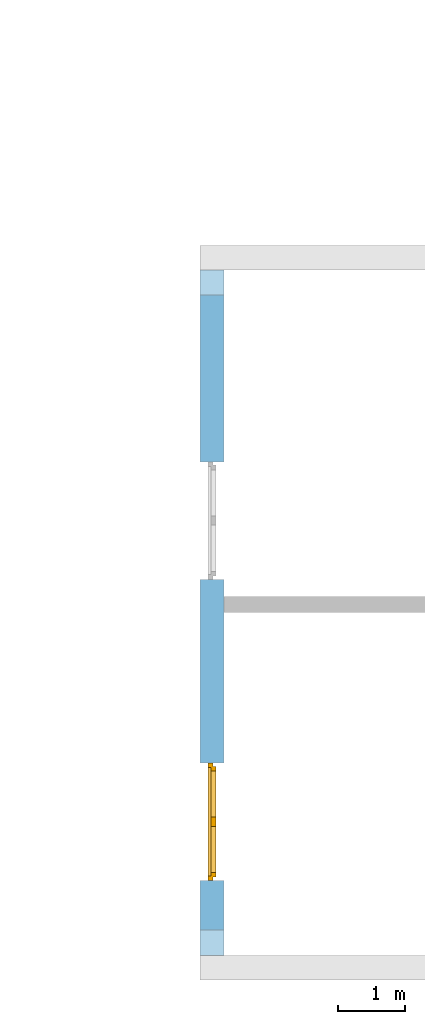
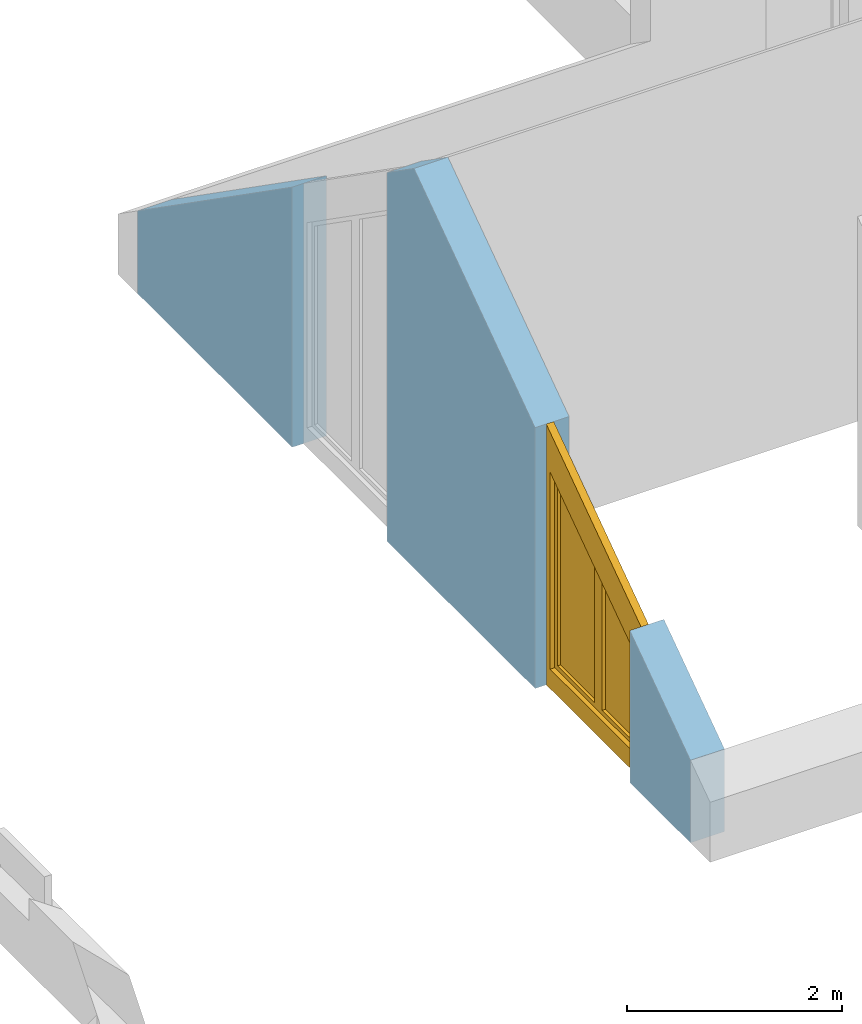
# One storey, part 13 of 23: 1 window, 2 openings, plus 1 element that does not belong to this part.
"""IFC2X3 building model written with IfcOpenShell, lengths in millimetres."""

from ifc_helpers import new_model, entity, si_unit, converted_unit, frame, frame_2d, origin, origin_with_axes, place, context, subcontext, project, spatial, polyline, rectangle, outline, extrude, clip, bounded_halfspace, faceted_brep, material, layer, layer_set, layer_usage, type_object, element, fill, save


model = new_model("IFC2X3")

# Units and contexts
model_context = context("Model", 3, precision=1e-05, world=origin())
body_context = subcontext(model_context, "Body", "Model", "MODEL_VIEW")
ifc_project = project(units=[si_unit("LENGTHUNIT", "METRE", prefix="MILLI"), converted_unit("PLANEANGLEUNIT", "DEGREE", entity("IfcPlaneAngleMeasure", 0.0174532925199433), si_unit("PLANEANGLEUNIT", "RADIAN"), dimensions=[0, 0, 0, 0, 0, 0, 0]), si_unit("AREAUNIT", "SQUARE_METRE"), si_unit("VOLUMEUNIT", "CUBIC_METRE")], contexts=[model_context])

# Building, storey
building_placement = place(None, origin())
building = spatial("IfcBuilding", under=ifc_project, at=building_placement, Name="Gebäude", CompositionType="ELEMENT")
storey_placement = place(building_placement, frame((0.0, 0.0, 5580.0), z_axis=(0.0, 0.0, 1.0), x_axis=(1.0, 0.0, 0.0)))
storey = spatial("IfcBuildingStorey", under=building, at=storey_placement, Name="DG.- Grundriss", CompositionType="ELEMENT", Elevation=5580.0)

# Wall, openings, window
ifc_material_1 = material(Name="Poroton")
ifc_layer = layer(ifc_material_1, 365.0)
ifc_layer_set = layer_set([ifc_layer])
ifc_layer_usage = layer_usage(ifc_layer_set, "AXIS2", "POSITIVE", 0.0)
wall_placement = place(storey_placement, frame((148357.7928067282, 135909.8877324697, 0.0), z_axis=(0.0, 0.0, 1.0), x_axis=(1.70032115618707e-14, -1.0, 0.0)))
wall = element("IfcWallStandardCase", 1, at=wall_placement, inside=storey, material=ifc_layer_usage, Name="<Unnamed Element>", context=body_context, shape_type="Clipping", body=[
    clip(clip(extrude(rectangle(XDim=10269.99999999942, YDim=365.0, at=frame_2d((5134.999999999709, 182.5), x_axis=(1.0, 0.0))), origin_with_axes(), (0.0, 0.0, 1.0), 4531.141460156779), bounded_halfspace(frame((6.206172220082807e-12, 365.0, 935.5757514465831), z_axis=(0.5735764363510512, -1.115129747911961e-14, -0.8191520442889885), x_axis=(-1.70032115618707e-14, -1.0, 0.0)), True, origin(), polyline([(6.206172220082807e-12, 365.0), (0.0, 0.0), (5134.99999999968, 4.911384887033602e-25), (5135.000000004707, 365.0), (6.206172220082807e-12, 365.0)]))), bounded_halfspace(frame((10270.00000000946, 365.0, 935.5757514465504), z_axis=(-0.5735764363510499, 1.578219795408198e-11, -0.8191520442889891), x_axis=(-0.819152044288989, 1.369778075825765e-26, 0.5735764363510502)), True, origin(), polyline([(10270.00000000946, 365.0), (5135.000000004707, 365.0), (5134.99999999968, 4.911384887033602e-25), (10269.99999999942, 0.0), (10270.00000000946, 365.0)]))),
])
opening_1_placement = place(wall_placement, frame((2874.999999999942, -2.54658516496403e-11, 0.0), z_axis=(0.0, 1.0, 0.0), x_axis=(0.0, 0.0, 1.0)))
element("IfcOpeningElement", 2, at=opening_1_placement, cuts=wall, Name="Fensteröffnung", ObjectType="Opening", context=body_context, shape_type="SweptSolid", body=[
    extrude(outline(polyline([(2948.672423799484, 0.0), (0.0, 0.0), (0.0, 1760.0), (4181.037691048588, 1760.0), (2948.672423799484, 0.0)])), origin_with_axes(), (0.0, 0.0, 1.0), 365.0),
])
opening_2_placement = place(wall_placement, frame((7384.999999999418, -9.851646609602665e-11, 0.0), z_axis=(0.0, 1.0, 0.0), x_axis=(0.0, 0.0, 1.0)))
opening_2 = element("IfcOpeningElement", 3, at=opening_2_placement, cuts=wall, Name="Fensteröffnung", ObjectType="Opening", context=body_context, shape_type="SweptSolid", body=[
    extrude(outline(polyline([(2955.674499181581, 0.0), (0.0, 0.0), (0.0, 1760.0), (1723.309231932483, 1760.0), (2955.674499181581, 0.0)])), origin_with_axes(), (0.0, 0.0, 1.0), 365.0),
])
ifc_material_2 = material()
window_style = type_object("IfcWindowStyle", Name="Fenster", ConstructionType="NOTDEFINED", OperationType="USERDEFINED", ParameterTakesPrecedence=False, Sizeable=False)
window_placement = place(opening_2_placement, frame((0.0, 0.0, 0.0), z_axis=(1.0, 0.0, 0.0), x_axis=(0.0, 1.0, 0.0)))
window = element("IfcWindow", 4, at=window_placement, inside=storey, type_object=window_style, material=ifc_material_2, Name="Fenster", OverallHeight=2955.674499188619, OverallWidth=1760.0, context=body_context, shape_type="Brep", body=[
    faceted_brep([(1760.000000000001, 200.0000000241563, 1723.309231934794), (1.364242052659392e-12, 200.0000000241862, 2955.674499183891), (1.364242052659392e-12, 200.000000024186, -2.449293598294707e-15), (1760.000000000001, 200.0000000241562, -2.449293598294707e-15), (1690.000000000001, 200.0000000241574, 220.0), (70.00000000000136, 200.0000000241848, 220.0), (70.00000000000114, 200.000000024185, 2454.973373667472), (1690.000000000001, 200.0000000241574, 1320.637161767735), (1760.0, 120.0000000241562, 2.449293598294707e-15), (0.0, 120.000000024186, 2.449293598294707e-15), (0.0, 120.0000000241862, 2955.674499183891), (1760.0, 120.0000000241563, 1723.309231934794), (1690.0, 120.0000000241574, 1320.637161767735), (69.99999999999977, 120.000000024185, 2454.973373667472), (70.0, 120.0000000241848, 220.0), (1690.0, 120.0000000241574, 220.0), (1760.000000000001, 200.0000000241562, -2.449293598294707e-15), (1760.0, 120.0000000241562, 2.449293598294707e-15), (1760.0, 120.0000000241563, 1723.309231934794), (1760.000000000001, 200.0000000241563, 1723.309231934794), (1.364242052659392e-12, 200.000000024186, -2.449293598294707e-15), (0.0, 120.000000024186, 2.449293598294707e-15), (1760.0, 120.0000000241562, 2.449293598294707e-15), (1760.000000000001, 200.0000000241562, -2.449293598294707e-15), (1.364242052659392e-12, 200.0000000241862, 2955.674499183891), (0.0, 120.0000000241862, 2955.674499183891), (0.0, 120.000000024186, 2.449293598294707e-15), (1.364242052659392e-12, 200.000000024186, -2.449293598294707e-15), (1760.000000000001, 200.0000000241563, 1723.309231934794), (1760.0, 120.0000000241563, 1723.309231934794), (0.0, 120.0000000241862, 2955.674499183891), (1.364242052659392e-12, 200.0000000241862, 2955.674499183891), (1690.000000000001, 200.0000000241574, 220.0), (1690.000000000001, 200.0000000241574, 1320.637161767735), (1690.0, 120.0000000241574, 1320.637161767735), (1690.0, 120.0000000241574, 220.0), (70.00000000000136, 200.0000000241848, 220.0), (1690.000000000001, 200.0000000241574, 220.0), (1690.0, 120.0000000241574, 220.0), (70.0, 120.0000000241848, 220.0), (70.00000000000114, 200.000000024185, 2454.973373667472), (70.00000000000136, 200.0000000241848, 220.0), (70.0, 120.0000000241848, 220.0), (69.99999999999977, 120.000000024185, 2454.973373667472), (1690.000000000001, 200.0000000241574, 1320.637161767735), (70.00000000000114, 200.000000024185, 2454.973373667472), (69.99999999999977, 120.000000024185, 2454.973373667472), (1690.0, 120.0000000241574, 1320.637161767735)], [[[0, 1, 2, 3], [4, 5, 6, 7]], [[8, 9, 10, 11], [12, 13, 14, 15]], [[16, 17, 18, 19]], [[20, 21, 22, 23]], [[24, 25, 26, 27]], [[28, 29, 30, 31]], [[32, 33, 34, 35]], [[36, 37, 38, 39]], [[40, 41, 42, 43]], [[44, 45, 46, 47]]], orient=[[False, False], [False, False], [False], [False], [False], [False], [False], [False], [False], [False]]),
    faceted_brep([(900.499999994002, 240.0000000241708, 220.0), (1690.000000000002, 240.0000000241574, 220.0), (1690.000000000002, 240.0000000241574, 1320.637161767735), (900.499999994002, 240.0000000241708, 1873.451013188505), (950.499999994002, 240.00000002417, 1777.401906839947), (1640.000000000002, 240.0000000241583, 1294.608809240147), (1640.000000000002, 240.0000000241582, 270.0), (950.499999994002, 240.0000000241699, 270.0), (900.4999999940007, 170.0000000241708, 1873.451013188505), (1690.000000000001, 170.0000000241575, 1320.637161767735), (1690.000000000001, 170.0000000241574, 220.0), (900.4999999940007, 170.0000000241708, 220.0), (950.4999999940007, 170.0000000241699, 270.0), (1640.000000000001, 170.0000000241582, 270.0), (1640.000000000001, 170.0000000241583, 1294.608809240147), (950.4999999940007, 170.00000002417, 1777.401906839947), (900.499999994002, 240.0000000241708, 1873.451013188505), (900.4999999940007, 170.0000000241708, 1873.451013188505), (900.4999999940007, 170.0000000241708, 220.0), (900.499999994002, 240.0000000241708, 220.0), (1690.000000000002, 240.0000000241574, 1320.637161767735), (1690.000000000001, 170.0000000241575, 1320.637161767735), (900.4999999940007, 170.0000000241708, 1873.451013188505), (900.499999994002, 240.0000000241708, 1873.451013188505), (1690.000000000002, 240.0000000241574, 220.0), (1690.000000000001, 170.0000000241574, 220.0), (1690.000000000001, 170.0000000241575, 1320.637161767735), (1690.000000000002, 240.0000000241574, 1320.637161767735), (900.499999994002, 240.0000000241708, 220.0), (900.4999999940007, 170.0000000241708, 220.0), (1690.000000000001, 170.0000000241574, 220.0), (1690.000000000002, 240.0000000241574, 220.0), (950.499999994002, 240.00000002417, 1777.401906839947), (950.499999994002, 240.0000000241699, 270.0), (950.4999999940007, 170.0000000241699, 270.0), (950.4999999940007, 170.00000002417, 1777.401906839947), (1640.000000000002, 240.0000000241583, 1294.608809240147), (950.499999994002, 240.00000002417, 1777.401906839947), (950.4999999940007, 170.00000002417, 1777.401906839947), (1640.000000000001, 170.0000000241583, 1294.608809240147), (1640.000000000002, 240.0000000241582, 270.0), (1640.000000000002, 240.0000000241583, 1294.608809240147), (1640.000000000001, 170.0000000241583, 1294.608809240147), (1640.000000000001, 170.0000000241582, 270.0), (950.499999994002, 240.0000000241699, 270.0), (1640.000000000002, 240.0000000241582, 270.0), (1640.000000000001, 170.0000000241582, 270.0), (950.4999999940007, 170.0000000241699, 270.0)], [[[0, 1, 2, 3], [4, 5, 6, 7]], [[8, 9, 10, 11], [12, 13, 14, 15]], [[16, 17, 18, 19]], [[20, 21, 22, 23]], [[24, 25, 26, 27]], [[28, 29, 30, 31]], [[32, 33, 34, 35]], [[36, 37, 38, 39]], [[40, 41, 42, 43]], [[44, 45, 46, 47]]], orient=[[False, False], [False, False], [False], [False], [False], [False], [False], [False], [False], [False]]),
    faceted_brep([(880.499999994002, 240.0000000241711, 200.0), (1710.000000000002, 240.000000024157, 200.0), (1710.000000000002, 240.0000000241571, 1331.04850277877), (880.499999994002, 240.0000000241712, 1911.870655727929), (900.499999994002, 240.0000000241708, 1873.451013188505), (1690.000000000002, 240.0000000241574, 1320.637161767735), (1690.000000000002, 240.0000000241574, 220.0), (900.499999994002, 240.0000000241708, 220.0), (880.4999999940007, 170.0000000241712, 1911.870655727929), (1710.000000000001, 170.0000000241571, 1331.04850277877), (1710.000000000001, 170.000000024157, 200.0), (880.4999999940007, 170.0000000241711, 200.0), (900.4999999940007, 170.0000000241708, 220.0), (1690.000000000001, 170.0000000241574, 220.0), (1690.000000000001, 170.0000000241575, 1320.637161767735), (900.4999999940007, 170.0000000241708, 1873.451013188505), (880.499999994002, 240.0000000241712, 1911.870655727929), (880.4999999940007, 170.0000000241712, 1911.870655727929), (880.4999999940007, 170.0000000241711, 200.0), (880.499999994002, 240.0000000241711, 200.0), (1710.000000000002, 240.0000000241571, 1331.04850277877), (1710.000000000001, 170.0000000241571, 1331.04850277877), (880.4999999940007, 170.0000000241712, 1911.870655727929), (880.499999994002, 240.0000000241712, 1911.870655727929), (1710.000000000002, 240.000000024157, 200.0), (1710.000000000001, 170.000000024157, 200.0), (1710.000000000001, 170.0000000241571, 1331.04850277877), (1710.000000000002, 240.0000000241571, 1331.04850277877), (880.499999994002, 240.0000000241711, 200.0), (880.4999999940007, 170.0000000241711, 200.0), (1710.000000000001, 170.000000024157, 200.0), (1710.000000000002, 240.000000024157, 200.0), (900.499999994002, 240.0000000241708, 1873.451013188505), (900.499999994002, 240.0000000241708, 220.0), (900.4999999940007, 170.0000000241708, 220.0), (900.4999999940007, 170.0000000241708, 1873.451013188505), (1690.000000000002, 240.0000000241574, 1320.637161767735), (900.499999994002, 240.0000000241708, 1873.451013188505), (900.4999999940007, 170.0000000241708, 1873.451013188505), (1690.000000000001, 170.0000000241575, 1320.637161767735), (1690.000000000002, 240.0000000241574, 220.0), (1690.000000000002, 240.0000000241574, 1320.637161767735), (1690.000000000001, 170.0000000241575, 1320.637161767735), (1690.000000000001, 170.0000000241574, 220.0), (900.499999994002, 240.0000000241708, 220.0), (1690.000000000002, 240.0000000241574, 220.0), (1690.000000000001, 170.0000000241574, 220.0), (900.4999999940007, 170.0000000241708, 220.0)], [[[0, 1, 2, 3], [4, 5, 6, 7]], [[8, 9, 10, 11], [12, 13, 14, 15]], [[16, 17, 18, 19]], [[20, 21, 22, 23]], [[24, 25, 26, 27]], [[28, 29, 30, 31]], [[32, 33, 34, 35]], [[36, 37, 38, 39]], [[40, 41, 42, 43]], [[44, 45, 46, 47]]], orient=[[False, False], [False, False], [False], [False], [False], [False], [False], [False], [False], [False]]),
    faceted_brep([(70.00000000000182, 240.000000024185, 2454.973373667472), (70.00000000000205, 240.0000000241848, 220.0), (899.4999999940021, 240.0000000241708, 220.0), (899.4999999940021, 240.0000000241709, 1874.151220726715), (809.4999999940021, 240.0000000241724, 1876.131169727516), (809.4999999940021, 240.0000000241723, 270.0), (120.0000000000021, 240.000000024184, 270.0), (120.0000000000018, 240.0000000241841, 2358.924267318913), (899.4999999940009, 170.0000000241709, 1874.151220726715), (899.4999999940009, 170.0000000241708, 220.0), (70.00000000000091, 170.0000000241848, 220.0), (70.00000000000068, 170.000000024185, 2454.973373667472), (120.0000000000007, 170.0000000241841, 2358.924267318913), (120.0000000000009, 170.000000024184, 270.0), (809.4999999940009, 170.0000000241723, 270.0), (809.4999999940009, 170.0000000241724, 1876.131169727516), (899.4999999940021, 240.0000000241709, 1874.151220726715), (899.4999999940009, 170.0000000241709, 1874.151220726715), (70.00000000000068, 170.000000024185, 2454.973373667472), (70.00000000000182, 240.000000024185, 2454.973373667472), (899.4999999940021, 240.0000000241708, 220.0), (899.4999999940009, 170.0000000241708, 220.0), (899.4999999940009, 170.0000000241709, 1874.151220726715), (899.4999999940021, 240.0000000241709, 1874.151220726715), (70.00000000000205, 240.0000000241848, 220.0), (70.00000000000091, 170.0000000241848, 220.0), (899.4999999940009, 170.0000000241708, 220.0), (899.4999999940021, 240.0000000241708, 220.0), (70.00000000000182, 240.000000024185, 2454.973373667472), (70.00000000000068, 170.000000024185, 2454.973373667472), (70.00000000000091, 170.0000000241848, 220.0), (70.00000000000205, 240.0000000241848, 220.0), (809.4999999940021, 240.0000000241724, 1876.131169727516), (120.0000000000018, 240.0000000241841, 2358.924267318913), (120.0000000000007, 170.0000000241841, 2358.924267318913), (809.4999999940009, 170.0000000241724, 1876.131169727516), (809.4999999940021, 240.0000000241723, 270.0), (809.4999999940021, 240.0000000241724, 1876.131169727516), (809.4999999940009, 170.0000000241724, 1876.131169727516), (809.4999999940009, 170.0000000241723, 270.0), (120.0000000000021, 240.000000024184, 270.0), (809.4999999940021, 240.0000000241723, 270.0), (809.4999999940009, 170.0000000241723, 270.0), (120.0000000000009, 170.000000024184, 270.0), (120.0000000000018, 240.0000000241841, 2358.924267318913), (120.0000000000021, 240.000000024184, 270.0), (120.0000000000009, 170.000000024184, 270.0), (120.0000000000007, 170.0000000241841, 2358.924267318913)], [[[0, 1, 2, 3], [4, 5, 6, 7]], [[8, 9, 10, 11], [12, 13, 14, 15]], [[16, 17, 18, 19]], [[20, 21, 22, 23]], [[24, 25, 26, 27]], [[28, 29, 30, 31]], [[32, 33, 34, 35]], [[36, 37, 38, 39]], [[40, 41, 42, 43]], [[44, 45, 46, 47]]], orient=[[False, False], [False, False], [False], [False], [False], [False], [False], [False], [False], [False]]),
    faceted_brep([(50.00000000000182, 240.0000000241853, 2493.393016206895), (50.00000000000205, 240.0000000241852, 200.0), (879.4999999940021, 240.0000000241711, 200.0), (879.4999999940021, 240.0000000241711, 219.9999999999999), (70.00000000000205, 240.0000000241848, 220.0), (70.00000000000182, 240.000000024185, 2454.973373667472), (879.4999999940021, 240.0000000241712, 1888.155371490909), (879.4999999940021, 240.0000000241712, 1912.570863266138), (879.4999999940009, 170.0000000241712, 1912.570863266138), (879.4999999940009, 170.0000000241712, 1888.155371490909), (70.00000000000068, 170.000000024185, 2454.973373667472), (70.00000000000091, 170.0000000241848, 220.0), (879.4999999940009, 170.0000000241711, 219.9999999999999), (879.4999999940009, 170.0000000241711, 200.0), (50.00000000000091, 170.0000000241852, 200.0), (50.00000000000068, 170.0000000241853, 2493.393016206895), (879.4999999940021, 240.0000000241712, 1912.570863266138), (879.4999999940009, 170.0000000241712, 1912.570863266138), (50.00000000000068, 170.0000000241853, 2493.393016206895), (50.00000000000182, 240.0000000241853, 2493.393016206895), (879.4999999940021, 240.0000000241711, 200.0), (879.4999999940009, 170.0000000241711, 200.0), (879.4999999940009, 170.0000000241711, 219.9999999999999), (879.4999999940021, 240.0000000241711, 219.9999999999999), (879.4999999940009, 170.0000000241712, 1888.155371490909), (879.4999999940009, 170.0000000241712, 1912.570863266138), (879.4999999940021, 240.0000000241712, 1912.570863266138), (879.4999999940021, 240.0000000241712, 1888.155371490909), (50.00000000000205, 240.0000000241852, 200.0), (50.00000000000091, 170.0000000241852, 200.0), (879.4999999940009, 170.0000000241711, 200.0), (879.4999999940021, 240.0000000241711, 200.0), (50.00000000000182, 240.0000000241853, 2493.393016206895), (50.00000000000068, 170.0000000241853, 2493.393016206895), (50.00000000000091, 170.0000000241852, 200.0), (50.00000000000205, 240.0000000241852, 200.0), (879.4999999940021, 240.0000000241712, 1888.155371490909), (70.00000000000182, 240.000000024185, 2454.973373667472), (70.00000000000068, 170.000000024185, 2454.973373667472), (879.4999999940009, 170.0000000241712, 1888.155371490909), (70.00000000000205, 240.0000000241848, 220.0), (879.4999999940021, 240.0000000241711, 219.9999999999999), (879.4999999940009, 170.0000000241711, 219.9999999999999), (70.00000000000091, 170.0000000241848, 220.0), (70.00000000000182, 240.000000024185, 2454.973373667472), (70.00000000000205, 240.0000000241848, 220.0), (70.00000000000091, 170.0000000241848, 220.0), (70.00000000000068, 170.000000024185, 2454.973373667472)], [[[0, 1, 2, 3, 4, 5, 6, 7]], [[8, 9, 10, 11, 12, 13, 14, 15]], [[16, 17, 18, 19]], [[20, 21, 22, 23]], [[24, 25, 26, 27]], [[28, 29, 30, 31]], [[32, 33, 34, 35]], [[36, 37, 38, 39]], [[40, 41, 42, 43]], [[44, 45, 46, 47]]], orient=[[False], [False], [False], [False], [False], [False], [False], [False], [False], [False]]),
    faceted_brep([(950.4999999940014, 205.00000002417, 1777.401906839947), (950.4999999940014, 205.0000000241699, 270.0), (1640.000000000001, 205.0000000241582, 270.0), (1640.000000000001, 205.0000000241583, 1294.608809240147), (950.4999999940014, 204.00000002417, 1777.401906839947), (1640.000000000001, 204.0000000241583, 1294.608809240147), (1640.000000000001, 204.0000000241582, 270.0), (950.4999999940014, 204.0000000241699, 270.0), (950.4999999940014, 205.00000002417, 1777.401906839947), (950.4999999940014, 204.00000002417, 1777.401906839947), (950.4999999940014, 204.0000000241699, 270.0), (950.4999999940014, 205.0000000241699, 270.0), (950.4999999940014, 205.0000000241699, 270.0), (950.4999999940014, 204.0000000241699, 270.0), (1640.000000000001, 204.0000000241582, 270.0), (1640.000000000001, 205.0000000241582, 270.0), (1640.000000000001, 205.0000000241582, 270.0), (1640.000000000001, 204.0000000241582, 270.0), (1640.000000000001, 204.0000000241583, 1294.608809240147), (1640.000000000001, 205.0000000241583, 1294.608809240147), (1640.000000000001, 205.0000000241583, 1294.608809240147), (1640.000000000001, 204.0000000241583, 1294.608809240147), (950.4999999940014, 204.00000002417, 1777.401906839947), (950.4999999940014, 205.00000002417, 1777.401906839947)], [[[0, 1, 2, 3]], [[4, 5, 6, 7]], [[8, 9, 10, 11]], [[12, 13, 14, 15]], [[16, 17, 18, 19]], [[20, 21, 22, 23]]], orient=[[False], [False], [False], [False], [False], [False]]),
    faceted_brep([(809.4999999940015, 205.0000000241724, 1876.131169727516), (120.0000000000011, 205.0000000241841, 2358.924267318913), (120.0000000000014, 205.000000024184, 270.0), (809.4999999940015, 205.0000000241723, 270.0), (809.4999999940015, 204.0000000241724, 1876.131169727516), (809.4999999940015, 204.0000000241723, 270.0), (120.0000000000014, 204.000000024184, 270.0), (120.0000000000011, 204.0000000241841, 2358.924267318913), (809.4999999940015, 205.0000000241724, 1876.131169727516), (809.4999999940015, 204.0000000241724, 1876.131169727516), (120.0000000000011, 204.0000000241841, 2358.924267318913), (120.0000000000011, 205.0000000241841, 2358.924267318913), (120.0000000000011, 205.0000000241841, 2358.924267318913), (120.0000000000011, 204.0000000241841, 2358.924267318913), (120.0000000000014, 204.000000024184, 270.0), (120.0000000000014, 205.000000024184, 270.0), (120.0000000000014, 205.000000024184, 270.0), (120.0000000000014, 204.000000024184, 270.0), (809.4999999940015, 204.0000000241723, 270.0), (809.4999999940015, 205.0000000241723, 270.0), (809.4999999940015, 205.0000000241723, 270.0), (809.4999999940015, 204.0000000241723, 270.0), (809.4999999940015, 204.0000000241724, 1876.131169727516), (809.4999999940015, 205.0000000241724, 1876.131169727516)], [[[0, 1, 2, 3]], [[4, 5, 6, 7]], [[8, 9, 10, 11]], [[12, 13, 14, 15]], [[16, 17, 18, 19]], [[20, 21, 22, 23]]], orient=[[False], [False], [False], [False], [False], [False]]),
])
fill(opening_2, window)

save(model, "model.ifc")
